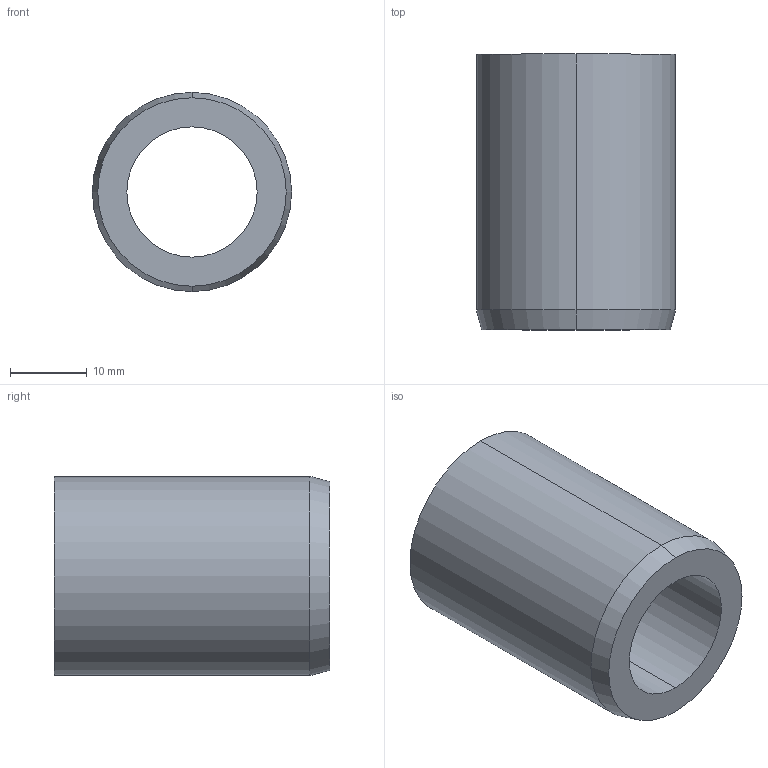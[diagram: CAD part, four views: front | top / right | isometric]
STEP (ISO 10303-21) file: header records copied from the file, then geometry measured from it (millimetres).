
FILE_DESCRIPTION (( 'STEP AP214' ), '1' );
FILE_NAME ('179-B17-36-A.step', '2024-10-17T06:06:35', ( '' ), ( '' ), 'SwSTEP 2.0', 'SolidWorks 2022', '' );
FILE_SCHEMA (( 'AUTOMOTIVE_DESIGN' ));
Length unit declared in the file: millimetre
Products named in the file (1): 179-B17-36-A
Bounding box: 26 x 36 x 26 mm (x, y, z)
Volume: 10861 mm3; surface area: 5398.1 mm2
Topology: 1 solids, 1 shells, 10 faces, 20 edges, 12 vertices
Faces by surface type: cylinder 4, cone 2, torus 2, plane 2
Entity records: 414 total; most frequent: DIRECTION 56, CARTESIAN_POINT 43, ORIENTED_EDGE 40, AXIS2_PLACEMENT_3D 25, EDGE_CURVE 20, CIRCLE 14, UNCERTAINTY_MEASURE_WITH_UNIT 13, PRESENTATION_LAYER_ASSIGNMENT 12
